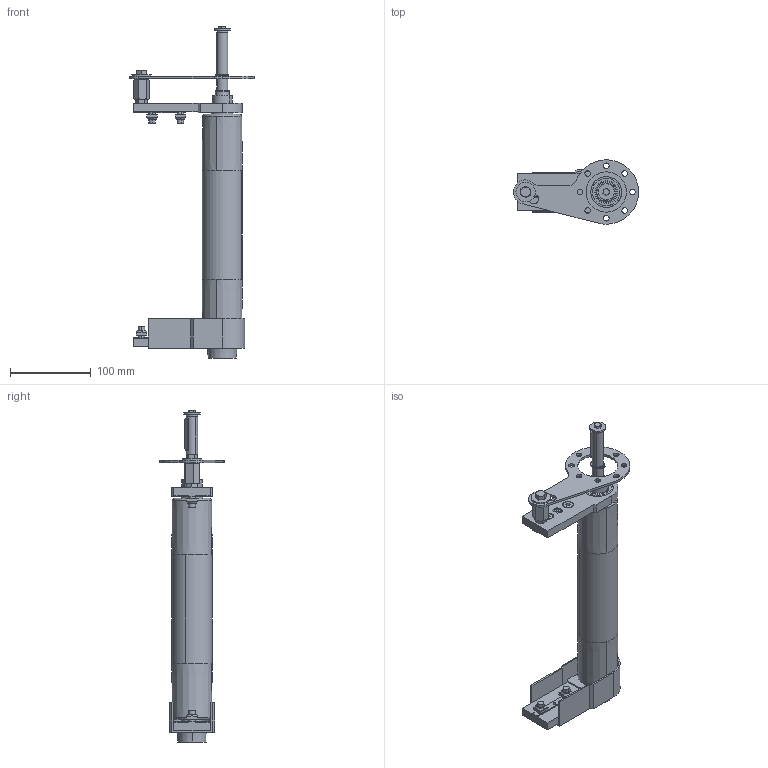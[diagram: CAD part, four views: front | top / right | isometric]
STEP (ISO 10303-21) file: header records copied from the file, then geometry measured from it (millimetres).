
FILE_DESCRIPTION (( 'STEP AP214' ), '1' );
FILE_NAME ('084.050.KDC.30.250.STEP', '2019-08-06T12:05:07', ( '' ), ( '' ), 'SwSTEP 2.0', 'SolidWorks 2018', '' );
FILE_SCHEMA (( 'AUTOMOTIVE_DESIGN' ));
Length unit declared in the file: millimetre
Products named in the file (23): 084.807.005; RONDELLE FASCIA LARGA UNI 6593_8.4x24 UNI 6593; VITI TSEI UNI 5933_M4x12 UNI 5933; GRANI A PUNTA PIATTA UNI 5923_M8x20 UNI 5923; 084.811.001; 084.802.023_084.802.023; 084.802.017_084.802.017; CHIAVETTE_A 5x5x40 UNI 6604-69; 084.807.004_084.807.004; TPU12-5; 084.301.000 VITI ALUSIC_084.301.003; RONDELLE FASCIA LARGA UNI 6593_5.4x20 UNI 6593; 084.802.027; VITI TE UNI 5739_M5x12 UNI 5739; 084.810.001; DADI ESAGONALI RIBASSATI UNI 5589_M8 UNI 5589; 084.807.013_084.807.003; 084.302.000 DADI ALUSIC 13x13_084.302.004; Circlip DIN 471 - 14 x 1_Circlip DIN 471 - 14 x 1; VITI TE UNI 5739_M8x25 UNI 5739; 084.815.104_Default<A macchina>; 084.050.KDC.30.250; 084.811.004
Assembly tree (31 placements, depth 2):
  084.050.KDC.30.250
    084.807.004_084.807.004
    084.807.013_084.807.003
    084.802.017_084.802.017  x2
    084.811.004
    084.815.104_Default<A macchina>
    084.810.001  x2
    VITI TSEI UNI 5933_M4x12 UNI 5933  x2
    084.811.001
    084.802.027
    084.807.005
    084.802.023_084.802.023
    084.301.000 VITI ALUSIC_084.301.003  x4
    084.302.000 DADI ALUSIC 13x13_084.302.004  x4
    DADI ESAGONALI RIBASSATI UNI 5589_M8 UNI 5589
    RONDELLE FASCIA LARGA UNI 6593_5.4x20 UNI 6593
    VITI TE UNI 5739_M5x12 UNI 5739
    VITI TE UNI 5739_M8x25 UNI 5739
    RONDELLE FASCIA LARGA UNI 6593_8.4x24 UNI 6593
    GRANI A PUNTA PIATTA UNI 5923_M8x20 UNI 5923
    TPU12-5
    Circlip DIN 471 - 14 x 1_Circlip DIN 471 - 14 x 1
    CHIAVETTE_A 5x5x40 UNI 6604-69
Bounding box: 154.99 x 80 x 411.63 mm (x, y, z)
Volume: 430904 mm3; surface area: 271474.1 mm2
Topology: 33 solids, 35 shells, 896 faces, 2206 edges, 1424 vertices
Faces by surface type: plane 375, cylinder 279, cone 110, torus 70, bspline 54, sphere 8
Entity records: 22694 total; most frequent: CARTESIAN_POINT 4906, DIRECTION 3509, ORIENTED_EDGE 3408, EDGE_CURVE 1704, AXIS2_PLACEMENT_3D 1347, VERTEX_POINT 1104, LINE 815, VECTOR 815
